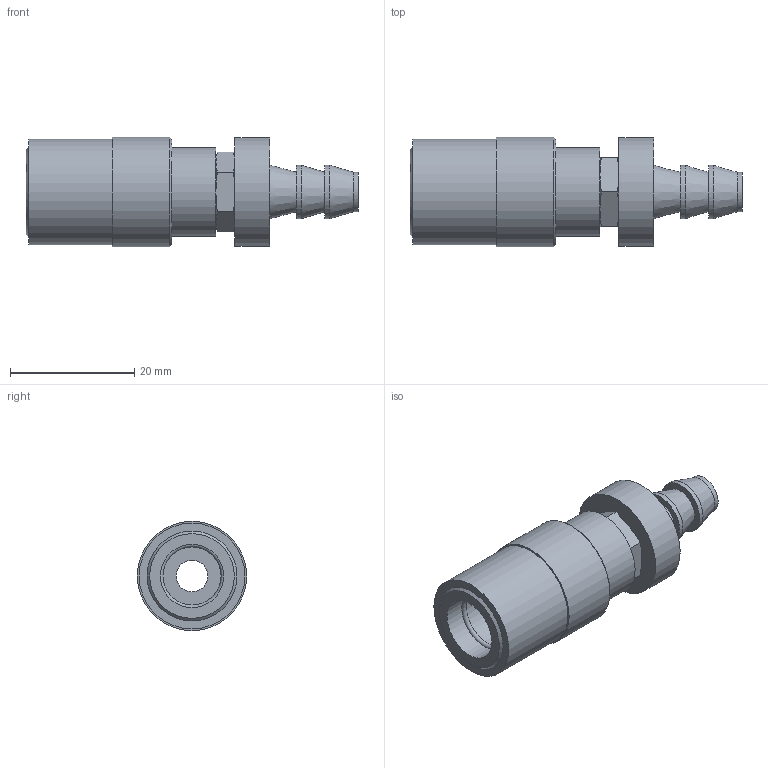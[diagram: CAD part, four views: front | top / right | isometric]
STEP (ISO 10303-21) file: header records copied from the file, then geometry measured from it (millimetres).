
FILE_DESCRIPTION(/* description */ ('STEP AP214'),/* implementation_level */ '2;1');
FILE_NAME(/* name */ 'JSL0204-SV',/* time_stamp */ '2024-12-19T09:16:31+01:00',/* author */ ('License CC BY-ND 4.0'),/* organization */ ('CADENAS'),/* preprocessor_version */ 'ST-DEVELOPER v19.3',/* originating_system */ 'PARTsolutions',/* authorisation */ ' ');
FILE_SCHEMA (('AUTOMOTIVE_DESIGN {1 0 10303 214 3 1 1}'));
Length unit declared in the file: inch
Products named in the file (1): JSL0204-SV
Bounding box: 53.41 x 17.59 x 17.59 mm (x, y, z)
Volume: 7139.7 mm3; surface area: 4161 mm2
Topology: 1 solids, 1 shells, 48 faces, 93 edges, 56 vertices
Faces by surface type: plane 19, cone 17, cylinder 11, torus 1
Full cylindrical faces by diameter (mm): 5.08 x1, 6.35 x1, 8.636 x2, 10.211 x2, 14.287 x1, 17.018 x1, 17.526 x1, 17.589 x1
Entity records: 1197 total; most frequent: CARTESIAN_POINT 266, DIRECTION 187, ORIENTED_EDGE 154, AXIS2_PLACEMENT_3D 89, EDGE_CURVE 77, EDGE_LOOP 75, FACE_BOUND 75, VERTEX_POINT 56
